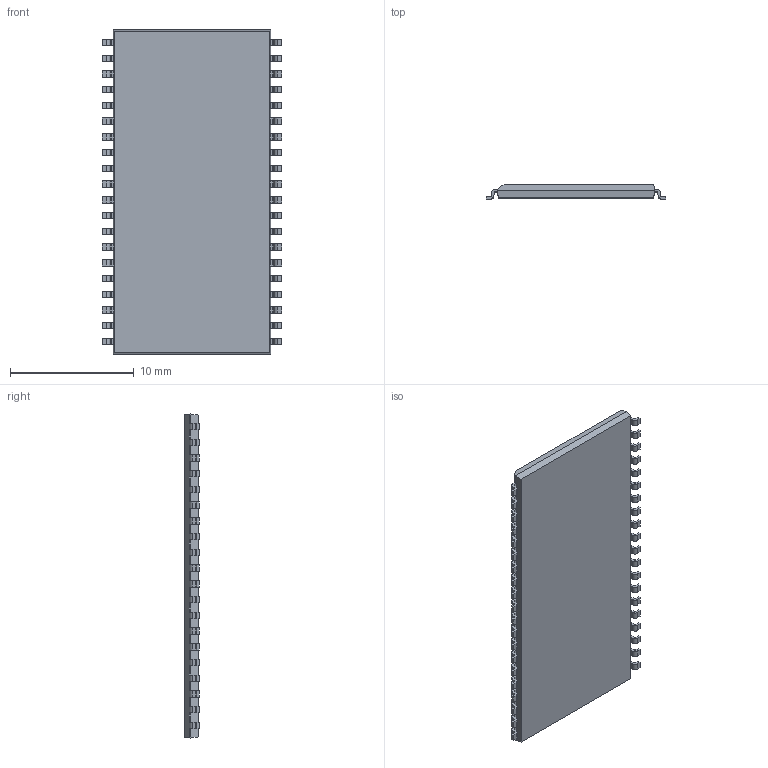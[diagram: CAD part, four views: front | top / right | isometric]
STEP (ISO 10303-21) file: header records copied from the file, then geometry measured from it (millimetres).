
FILE_DESCRIPTION (( 'STEP AP214' ), '1' );
FILE_NAME ('TSOP127P1430X120-40_MO-135.AD.STEP', '2014-10-30T09:05:13', ( 'Tester2' ), ( '' ), 'SwSTEP 2.0', 'SolidWorks 2012', '' );
FILE_SCHEMA (( 'AUTOMOTIVE_DESIGN' ));
Length unit declared in the file: millimetre
Products named in the file (1): TSOP127P1430X120-40_MO-135.AD
Bounding box: 14.5 x 1.2 x 26.16 mm (x, y, z)
Volume: 365.5 mm3; surface area: 810.1 mm2
Topology: 1 solids, 1 shells, 554 faces, 1649 edges, 1098 vertices
Faces by surface type: plane 392, cylinder 162
Entity records: 24292 total; most frequent: CARTESIAN_POINT 3302, ORIENTED_EDGE 3298, DIRECTION 3083, EDGE_CURVE 1649, LINE 1325, VECTOR 1325, VERTEX_POINT 1098, AXIS2_PLACEMENT_3D 879
